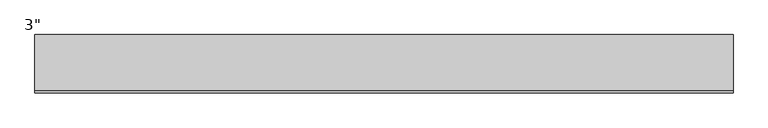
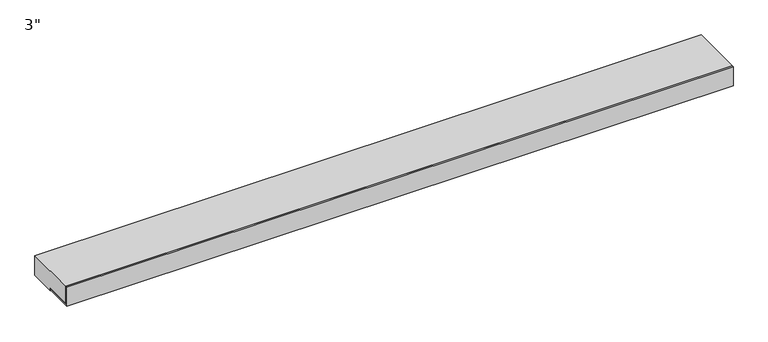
"""IFC4 building model written with IfcOpenShell, lengths in millimetres: proxy geometry."""

from ifc_helpers import new_model, si_unit, frame, origin, place, context, project, spatial, polyline, outline, extrude, source, transform, mapped, element, save


def proxy_e5e434bb(model_context):
    return source(origin(), model_context, "Body", "SweptSolid", [
        extrude(outline(polyline([(-101.6, 76.2), (-95.25, 76.2), (-95.25, 9.525), (3.175, 9.525), (3.175, 3.175), (-101.6, 3.175), (-101.6, 76.2)])), frame((-1219.2, 0.0, 0.0), z_axis=(1.0, 0.0, 0.0), x_axis=(0.0, 1.0, 0.0)), (0.0, 0.0, 1.0), 2438.4),
        extrude(outline(polyline([(101.6, 0.0), (3.175, 0.0), (3.175, 9.525), (-95.25, 9.525), (-95.25, 76.2), (101.6, 76.2), (101.6, 0.0)])), frame((-1219.2, 0.0, 0.0), z_axis=(1.0, 0.0, 0.0), x_axis=(0.0, 1.0, 0.0)), (0.0, 0.0, 1.0), 2438.4),
    ])


if __name__ == "__main__":
    model = new_model("IFC4")
    model_context = context("Model", 3, world=origin())
    ifc_project = project(units=[si_unit("LENGTHUNIT", "METRE", prefix="MILLI")], contexts=[model_context])
    site = spatial("IfcSite", under=ifc_project)
    building = spatial("IfcBuilding", under=site)
    placement = place(None, origin())
    proxy_shape = proxy_e5e434bb(model_context)
    element("IfcBuildingElementProxy", 1, Name="Durabond Generic Model Equalite Vent Board : 3\"", ObjectType="Durabond Generic Model Equalite Vent Board : 3\"", at=placement, inside=building, context=model_context, shape_type="MappedRepresentation", body=[
        mapped(proxy_shape, transform((0.0, 0.0, 0.0), x_axis=(1.0, 0.0, 0.0), y_axis=(0.0, 1.0, 0.0), z_axis=(0.0, 0.0, 1.0))),
    ])
    save(model, "model.ifc")
